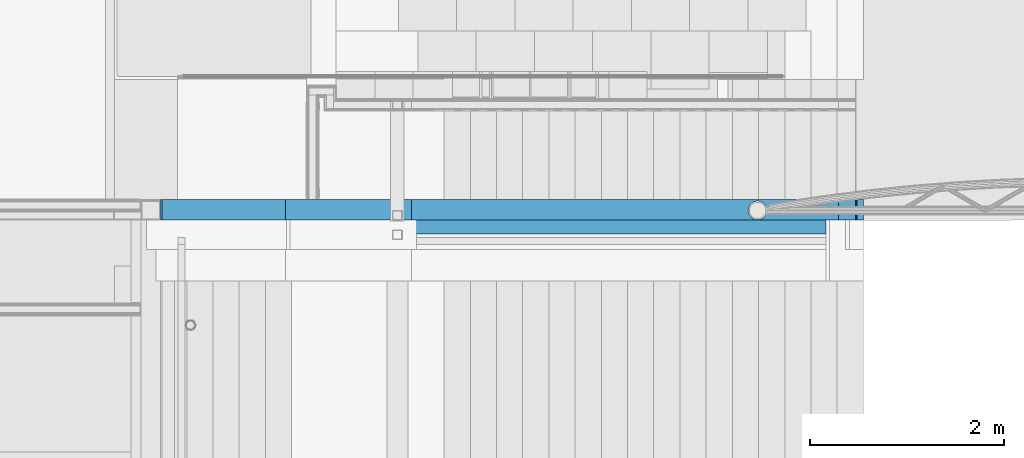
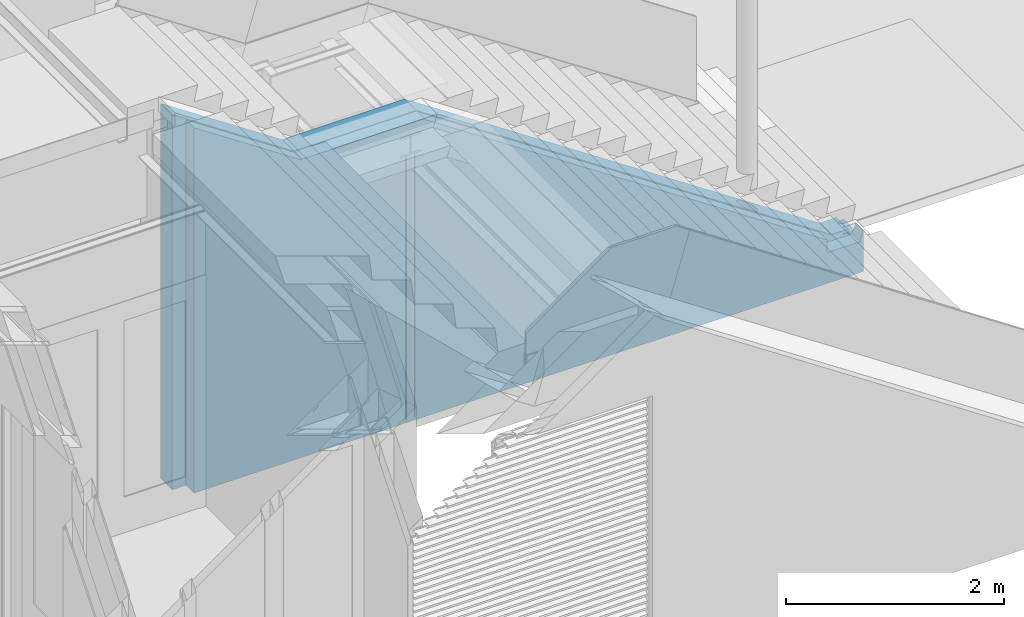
# One storey, part 49 of 165: 2 building element parts, 1 element without a shape of its own.
"""IFC2X3 building model written with IfcOpenShell, lengths in millimetres."""

from ifc_helpers import new_model, entity, si_unit, converted_unit, derived_unit, money_unit, direction, frame, origin_with_axes, place, context, subcontext, project, spatial, faceted_brep, material, type_object, element, aggregate, save


model = new_model("IFC2X3")

# Units and contexts
model_context = context("Model", 3, precision=0.01, world=origin_with_axes(), true_north=direction((0.0, 1.0)))
body_context = subcontext(model_context, "Body", "Model", "MODEL_VIEW")
ifc_project = project(units=[si_unit("LENGTHUNIT", "METRE", prefix="MILLI"), si_unit("AREAUNIT", "SQUARE_METRE"), si_unit("VOLUMEUNIT", "CUBIC_METRE"), converted_unit("PLANEANGLEUNIT", "DEGREE", entity("IfcPlaneAngleMeasure", 0.0174532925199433), si_unit("PLANEANGLEUNIT", "RADIAN"), dimensions=[0, 0, 0, 0, 0, 0, 0]), money_unit("EUR"), converted_unit("TIMEUNIT", "Year", entity("IfcTimeMeasure", 31556926.0), si_unit("TIMEUNIT", "SECOND"), dimensions=[0, 0, 1, 0, 0, 0, 0]), si_unit("MASSUNIT", "GRAM", prefix="KILO"), si_unit("THERMODYNAMICTEMPERATUREUNIT", "DEGREE_CELSIUS"), si_unit("LUMINOUSINTENSITYUNIT", "LUMEN"), si_unit("ENERGYUNIT", "JOULE", prefix="MEGA"), derived_unit("THERMALCONDUCTANCEUNIT", [(si_unit("POWERUNIT", "WATT"), 1), (si_unit("LENGTHUNIT", "METRE"), -1), (si_unit("THERMODYNAMICTEMPERATUREUNIT", "KELVIN"), -1)]), derived_unit("SPECIFICHEATCAPACITYUNIT", [(si_unit("ENERGYUNIT", "JOULE"), 1), (si_unit("MASSUNIT", "GRAM", prefix="KILO"), -1), (si_unit("THERMODYNAMICTEMPERATUREUNIT", "KELVIN"), -1)]), derived_unit("MASSDENSITYUNIT", [(si_unit("MASSUNIT", "GRAM", prefix="KILO"), 1), (si_unit("VOLUMEUNIT", "CUBIC_METRE"), -1)])], contexts=[model_context])

# Site, building, storey
site_placement = place(None, origin_with_axes())
site = spatial("IfcSite", under=ifc_project, at=site_placement, Name="Site", CompositionType="ELEMENT")
building_placement = place(site_placement, origin_with_axes())
building = spatial("IfcBuilding", under=site, at=building_placement, Name="Naam gebouw", CompositionType="ELEMENT")
storey_placement = place(building_placement, origin_with_axes())
storey = spatial("IfcBuildingStorey", under=building, at=storey_placement, Name="Begane grond", CompositionType="ELEMENT", Elevation=0.0)

# Wall, building element parts
wall_type = type_object("IfcWallType", Name="21 Buitenwand spouwmuur kalkzandsteen 464", PredefinedType="NOTDEFINED")
wall_placement = place(storey_placement, frame((11550.0, 4479.999999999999, -485.0), z_axis=(0.0, 0.0, 1.0), x_axis=(1.0, 0.0, 0.0)))
wall = element("IfcWall", 1, at=wall_placement, inside=storey, type_object=wall_type, Name="21_Wand-x")
ifc_material_1 = material(Name="Steen - Kalkzandsteen C")
building_element_part_1_placement = place(wall_placement, origin_with_axes())
building_element_part_1 = element("IfcBuildingElementPart", 2, at=building_element_part_1_placement, material=ifc_material_1, Name="Steen - Kalkzandsteen C", context=body_context, shape_type="Brep", body=[
    faceted_brep([(6242.926046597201, 72.71420186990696, 907.8761634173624), (6246.849152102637, 99.99999999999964, 905.2607588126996), (6246.849152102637, 99.99999999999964, 60.00000000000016), (6242.926046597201, 72.71420186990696, 60.00000000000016), (6163.782344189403, 4.135793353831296, 960.6386340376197), (6160.000091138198, 4.135793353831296, 963.1601360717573), (6160.000091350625, 0.0001859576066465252, 963.1601360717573), (6250.000091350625, 0.0001905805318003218, 903.1601360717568), (6250.000080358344, 214.0000000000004, 903.1601360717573), (6160.000080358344, 214.0000000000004, 963.1601360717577), (6160.000081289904, 195.864206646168, 963.1601360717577), (6163.782344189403, 195.864206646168, 960.638627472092), (6190.23209611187, 188.0978587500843, 943.0054597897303), (6213.422414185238, 173.1943462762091, 927.5452482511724), (6231.474556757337, 152.3610631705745, 915.5104872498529), (6242.926046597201, 127.2857981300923, 907.8761615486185), (6231.474556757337, 47.63893682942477, 915.5104908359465), (6213.422414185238, 26.80565372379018, 927.5452532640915), (6190.23209611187, 11.90214124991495, 943.0054658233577), (6242.926046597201, 127.2857981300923, 60.00000000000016), (6190.23209611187, 11.90214124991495, 60.00000000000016), (6213.422414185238, 26.80565372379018, 60.00000000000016), (6231.474556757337, 47.63893682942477, 60.00000000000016), (6231.474556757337, 152.3610631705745, 60.00000000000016), (6213.422414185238, 173.1943462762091, 60.00000000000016), (6190.23209611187, 188.0978587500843, 60.00000000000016), (6163.782344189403, 195.864206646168, 60.00000000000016), (6136.215960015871, 195.864206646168, 60.00000000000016), (6109.766208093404, 188.0978587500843, 60.00000000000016), (6086.575890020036, 173.19434627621, 60.00000000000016), (6068.523747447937, 152.3610631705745, 60.00000000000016), (6057.072257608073, 127.2857981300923, 60.00000000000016), (6053.149152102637, 99.99999999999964, 60.00000000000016), (6057.072257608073, 72.71420186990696, 60.00000000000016), (6068.523747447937, 47.63893682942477, 60.00000000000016), (6086.575890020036, 26.80565372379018, 60.00000000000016), (6109.766208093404, 11.90214124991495, 60.00000000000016), (6136.215960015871, 4.135793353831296, 60.00000000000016), (6163.782344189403, 4.135793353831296, 60.00000000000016), (6136.215960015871, 4.135793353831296, 979.0162234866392), (6086.575890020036, 26.80565372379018, 1012.109602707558), (6070.000088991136, 45.93514786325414, 1023.160136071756), (6070.000091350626, 0.0001813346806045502, 1023.160136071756), (6109.766208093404, 11.90214124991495, 996.6493911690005), (359.9999946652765, -1.948816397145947e-05, 3963.160135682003), (269.9999946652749, -1.686353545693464e-05, 4023.160135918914), (179.999994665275, -1.423890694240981e-05, 4083.160136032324), (89.99999466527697, -1.161427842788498e-05, 4143.160136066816), (12.24019877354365, -6.554595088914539e-06, 4194.999999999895), (0.0, -6.041945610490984e-06, 4194.999999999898), (0.0, 0.0, 4055.000000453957), (1.000000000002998, -0.0007431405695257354, 4055.000000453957), (1.000000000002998, -0.0007431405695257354, 3790.000000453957), (16.00000000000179, -0.0007431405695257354, 3790.000000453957), (16.00000000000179, -0.0007431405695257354, 3775.000000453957), (0.0, 0.0, 3775.000000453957), (0.0, 0.0, 0.0), (7240.000087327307, 0.0, 0.0), (7239.997955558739, 0.0, 110.0), (7104.997955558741, 0.0, 110.0), (7104.997955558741, 0.0, 120.2000000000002), (7169.19795555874, 0.0, 120.2000000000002), (7169.19795555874, 0.0, 369.8000000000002), (7104.997955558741, 0.0, 369.8000000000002), (7104.997955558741, 0.0, 380.0000000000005), (7159.997955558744, 0.0, 380.0000000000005), (7159.997955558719, 0.0002375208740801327, 414.9999999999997), (6982.240295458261, 0.0002281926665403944, 414.9999999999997), (6970.000091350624, 0.000227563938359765, 423.1601360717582), (6880.000091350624, 0.00022294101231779, 483.1601360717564), (6790.000091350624, 0.0002183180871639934, 543.1601360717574), (6700.000091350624, 0.0002136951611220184, 603.1601360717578), (6610.000091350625, 0.0002090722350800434, 663.1601360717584), (6520.000091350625, 0.0002044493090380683, 723.1601360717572), (6430.000091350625, 0.0001998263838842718, 783.1601360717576), (6340.000091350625, 0.0001952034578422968, 843.1601360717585), (5980.000091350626, 0.0001767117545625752, 1083.160136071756), (5890.000091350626, 0.0001720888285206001, 1143.160136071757), (5800.000091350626, 0.0001674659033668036, 1203.160136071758), (5710.000091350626, 0.0001628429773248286, 1263.160136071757), (5620.000091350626, 0.0001582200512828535, 1323.160136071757), (5530.000091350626, 0.000153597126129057, 1383.160136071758), (5440.000091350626, 0.000148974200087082, 1443.160136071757), (5350.000091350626, 0.0001443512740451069, 1503.160136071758), (5260.000091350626, 0.0001397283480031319, 1563.160136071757), (5170.000091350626, 0.0001351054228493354, 1623.160136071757), (5080.000091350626, 0.0001304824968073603, 1683.160136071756), (4990.000091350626, 0.0001258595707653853, 1743.160136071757), (4900.000091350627, 0.0001212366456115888, 1803.160136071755), (4810.000091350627, 0.0001166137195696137, 1863.160136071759), (4720.000091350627, 0.0001119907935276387, 1923.160136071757), (4630.000091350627, 0.0001073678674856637, 1983.160136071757), (4540.000091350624, 0.0001027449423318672, 2043.160136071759), (4450.000091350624, 9.812201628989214e-05, 2103.160136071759), (4360.000091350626, 9.349909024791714e-05, 2163.160136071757), (4270.000091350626, 8.887616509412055e-05, 2223.160136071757), (4180.000091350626, 8.425323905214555e-05, 2283.160136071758), (4090.000091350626, 7.963031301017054e-05, 2343.160136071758), (4000.000091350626, 7.500738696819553e-05, 2403.160136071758), (3910.000091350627, 7.038446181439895e-05, 2463.160136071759), (3820.000091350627, 6.576153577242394e-05, 2523.160136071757), (3730.000091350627, 6.113860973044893e-05, 2583.160136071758), (3640.000091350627, 5.651568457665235e-05, 2643.160136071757), (3550.000091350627, 5.189275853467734e-05, 2703.160136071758), (3460.000091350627, 4.726983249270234e-05, 2763.160136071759), (3370.000091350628, 4.264690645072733e-05, 2823.160136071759), (3280.000091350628, 3.802398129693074e-05, 2883.160136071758), (3190.000091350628, 3.340105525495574e-05, 2943.160136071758), (3100.000091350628, 2.877812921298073e-05, 3003.160136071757), (3010.000091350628, 2.415520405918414e-05, 3063.160136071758), (2587.240288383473, 6.620139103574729e-06, 3345.0), (1350.000106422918, -3.936943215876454e-05, 3345.0), (1287.240299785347, -3.936943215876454e-05, 3345.0), (1260.000062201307, -3.936943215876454e-05, 3363.16015318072), (1215.0000453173, -3.936943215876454e-05, 3393.160154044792), (1170.000028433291, -3.936943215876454e-05, 3423.160154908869), (1125.000011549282, -3.936943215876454e-05, 3453.160156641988), (1079.999994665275, -4.048519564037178e-05, 3483.160158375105), (1034.999994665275, -3.917288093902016e-05, 3513.160153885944), (989.9999946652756, -3.786056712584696e-05, 3543.160149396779), (944.9999946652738, -3.654825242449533e-05, 3573.16014574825), (899.9999946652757, -3.523593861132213e-05, 3603.160142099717), (854.999994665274, -3.39236239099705e-05, 3633.160138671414), (809.9999998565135, -3.261130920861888e-05, 3663.160131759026), (719.9999946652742, -3.261130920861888e-05, 3723.160134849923), (629.9999946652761, -2.736204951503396e-05, 3783.160134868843), (539.9999946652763, -2.473742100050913e-05, 3843.160135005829), (449.9999946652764, -2.21127924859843e-05, 3903.160135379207), (2389.999999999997, 0.0, 3326.499999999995), (2369.999999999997, -0.0007431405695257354, 3326.499999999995), (2369.999999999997, -0.0007431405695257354, 3334.999999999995), (2509.999999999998, -0.0007431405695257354, 3334.999999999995), (2509.999999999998, -0.0007431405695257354, 3326.499999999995), (2489.999999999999, 0.0, 3326.499999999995), (2489.999999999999, 0.0, 3210.499999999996), (2509.999999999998, -0.0007431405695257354, 3210.499999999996), (2509.999999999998, -0.0007431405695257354, 3201.999999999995), (2489.999999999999, 0.0, 3201.999999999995), (2489.999999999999, 0.0, 35.0000000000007), (2389.999999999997, 0.0, 35.0000000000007), (2389.999999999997, 0.0, 3201.999999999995), (2369.999999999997, -0.0007431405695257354, 3201.999999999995), (2369.999999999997, -0.0007431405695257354, 3210.499999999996), (2389.999999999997, 0.0, 3210.499999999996), (6340.000080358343, 214.0000000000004, 843.1601360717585), (6610.000080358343, 214.0000000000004, 663.1601360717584), (6700.000080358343, 214.0000000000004, 603.1601360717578), (6790.000080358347, 214.0000000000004, 543.1601360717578), (6880.000080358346, 214.0000000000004, 483.1601360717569), (6970.000080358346, 214.0000000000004, 423.1601360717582), (6982.240284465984, 214.0000000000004, 414.9999999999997), (7159.997955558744, 214.0000000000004, 414.9999999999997), (7159.997955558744, 214.0000000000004, 380.0000000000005), (7104.997955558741, 214.0000000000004, 380.0000000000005), (7104.997955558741, 214.0000000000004, 369.8000000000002), (7169.19795555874, 214.0000000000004, 369.8000000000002), (7169.19795555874, 214.0000000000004, 120.2000000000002), (7104.997955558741, 214.0000000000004, 120.2000000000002), (7104.997955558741, 214.0000000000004, 110.0), (7239.997955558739, 214.0000000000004, 110.0), (7240.000087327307, 214.0000000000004, 0.0), (0.0, 214.0000000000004, 0.0), (0.0, 214.0000000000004, 4194.999999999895), (12.24020501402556, 214.0000000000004, 4194.999999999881), (90.00000090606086, 214.0000000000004, 4143.160136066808), (180.0000009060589, 214.0000000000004, 4083.160136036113), (270.0000009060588, 214.0000000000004, 4023.160135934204), (360.0000009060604, 214.0000000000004, 3963.160135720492), (450.0000009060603, 214.0000000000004, 3903.160135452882), (540.0000009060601, 214.0000000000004, 3843.160135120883), (630.00000090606, 214.0000000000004, 3783.160135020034), (720.0000010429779, 214.0000000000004, 3723.160134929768), (810.0000030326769, 214.0000000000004, 3663.160133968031), (828.4344798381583, 214.0000000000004, 3650.870484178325), (881.5655222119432, 214.0000000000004, 3615.449792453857), (900.0000009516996, 214.0000000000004, 3603.160141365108), (918.4344795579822, 214.0000000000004, 3590.870490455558), (971.5655225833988, 214.0000000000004, 3555.449798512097), (990.0000009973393, 214.0000000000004, 3543.160147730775), (1008.434479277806, 214.0000000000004, 3530.870497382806), (1061.565522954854, 214.0000000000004, 3495.449805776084), (1080.000001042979, 214.0000000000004, 3483.160155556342), (1098.434486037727, 214.0000000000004, 3470.870502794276), (1151.565544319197, 214.0000000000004, 3435.449806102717), (1170.000029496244, 214.0000000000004, 3423.16015321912), (1188.434514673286, 214.0000000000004, 3410.870500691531), (1241.56557277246, 214.0000000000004, 3375.449804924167), (1260.000057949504, 214.0000000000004, 3363.16015239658), (1278.434543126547, 214.0000000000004, 3350.870500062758), (1287.240295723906, 214.0000000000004, 3345.0), (1350.000095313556, 214.0000000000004, 3345.0), (2587.240278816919, 214.0000000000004, 3344.999999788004), (3010.000080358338, 214.0000000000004, 3063.160136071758), (3100.00008035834, 214.0000000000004, 3003.160136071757), (3190.00008035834, 214.0000000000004, 2943.160136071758), (3280.00008035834, 214.0000000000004, 2883.160136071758), (3370.00008035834, 214.0000000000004, 2823.160136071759), (3460.000080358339, 214.0000000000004, 2763.160136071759), (3550.000080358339, 214.0000000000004, 2703.160136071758), (3640.000080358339, 214.0000000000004, 2643.160136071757), (3730.000080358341, 214.0000000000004, 2583.160136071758), (3820.000080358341, 214.0000000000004, 2523.160136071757), (3910.000080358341, 214.0000000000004, 2463.160136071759), (4000.00008035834, 214.0000000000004, 2403.160136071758), (4090.00008035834, 214.0000000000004, 2343.160136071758), (4180.00008035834, 214.0000000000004, 2283.160136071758), (4270.00008035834, 214.0000000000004, 2223.160136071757), (4360.00008035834, 214.0000000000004, 2163.160136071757), (4450.00008035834, 214.0000000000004, 2103.160136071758), (4540.00008035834, 214.0000000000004, 2043.160136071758), (4630.000080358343, 214.0000000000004, 1983.160136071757), (4720.000080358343, 214.0000000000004, 1923.160136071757), (4810.000080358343, 214.0000000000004, 1863.160136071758), (4900.000080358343, 214.0000000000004, 1803.160136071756), (4990.000080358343, 214.0000000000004, 1743.160136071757), (5080.000080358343, 214.0000000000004, 1683.160136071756), (5170.000080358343, 214.0000000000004, 1623.160136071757), (5260.000080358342, 214.0000000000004, 1563.160136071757), (5350.000080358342, 214.0000000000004, 1503.160136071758), (5440.000080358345, 214.0000000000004, 1443.160136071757), (5530.000080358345, 214.0000000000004, 1383.160136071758), (5620.000080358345, 214.0000000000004, 1323.160136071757), (5710.000080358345, 214.0000000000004, 1263.160136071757), (5800.000080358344, 214.0000000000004, 1203.160136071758), (5890.000080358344, 214.0000000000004, 1143.160136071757), (5980.000080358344, 214.0000000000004, 1083.160136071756), (6070.000080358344, 214.0000000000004, 1023.160136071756), (6430.000080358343, 214.0000000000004, 783.1601360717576), (6520.000080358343, 214.0000000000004, 723.1601360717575), (2437.249999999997, 214.0000000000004, 3210.499999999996), (2369.999999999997, 214.0000000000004, 3210.499999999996), (2369.999999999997, 214.0000000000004, 3201.999999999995), (2509.999999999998, 214.0000000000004, 3201.999999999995), (2509.999999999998, 214.0000000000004, 3210.499999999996), (2442.749999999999, 214.0000000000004, 3210.499999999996), (2442.749999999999, 214.0000000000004, 3326.499999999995), (2509.999999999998, 214.0000000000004, 3326.499999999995), (2509.999999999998, 214.0000000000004, 3334.999999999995), (2369.999999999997, 214.0000000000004, 3334.999999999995), (2369.999999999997, 214.0000000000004, 3326.499999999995), (2437.249999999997, 214.0000000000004, 3326.499999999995), (6086.575890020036, 173.19434627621, 1012.109597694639), (6109.766208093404, 188.0978587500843, 996.6493851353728), (6136.215960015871, 195.864206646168, 979.0162169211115), (6070.000083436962, 154.0648457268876, 1023.160136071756), (6068.523747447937, 152.3610631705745, 1024.144360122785), (6057.072257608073, 127.2857981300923, 1031.778687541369), (6053.149152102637, 99.99999999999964, 1034.394092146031), (6057.072257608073, 72.71420186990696, 1031.778689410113), (6068.523747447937, 47.63893682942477, 1024.144363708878), (0.0, 199.9999999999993, 3775.000000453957), (0.0, 199.9999999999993, 4055.000000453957), (1.000000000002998, 199.9999999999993, 4055.000000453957), (1.000000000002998, 199.9999999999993, 3790.000000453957), (16.00000000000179, 199.9999999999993, 3790.000000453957), (16.00000000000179, 199.9999999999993, 3775.000000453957), (1287.240298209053, 143.0647876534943, 3345.0), (2389.999999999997, 100.0000000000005, 3326.499999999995), (2437.249999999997, 100.0000000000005, 3326.499999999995), (2442.749999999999, 100.0000000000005, 3326.499999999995), (2489.999999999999, 100.0000000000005, 3326.499999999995), (2489.999999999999, 100.0000000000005, 3210.499999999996), (2442.749999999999, 100.0000000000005, 3210.499999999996), (2389.999999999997, 100.0000000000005, 3201.999999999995), (2489.999999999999, 100.0000000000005, 3201.999999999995), (2489.999999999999, 100.0000000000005, 35.0000000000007), (2389.999999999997, 100.0000000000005, 35.0000000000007), (2483.999999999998, 6.000000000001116, 35.0000000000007), (2395.999999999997, 6.000000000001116, 35.0000000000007), (2395.999999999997, 94.00000000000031, 35.0000000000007), (2483.999999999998, 94.00000000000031, 35.0000000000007), (2437.249999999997, 100.0000000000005, 3210.499999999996), (2389.999999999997, 100.0000000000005, 3210.499999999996), (2483.999999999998, 6.000000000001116, 3201.999999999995), (2395.999999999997, 6.000000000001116, 3201.999999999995), (2395.999999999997, 94.00000000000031, 3201.999999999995), (2483.999999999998, 94.00000000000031, 3201.999999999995)], [[[0, 1, 2, 3]], [[4, 5, 6, 7, 8, 9, 10, 11, 12, 13, 14, 15, 1, 0, 16, 17, 18]], [[1, 15, 19, 2]], [[20, 21, 22, 3, 2, 19, 23, 24, 25, 26, 27, 28, 29, 30, 31, 32, 33, 34, 35, 36, 37, 38]], [[16, 0, 3, 22]], [[4, 38, 37, 39, 5]], [[40, 41, 42, 6, 5, 39, 43]], [[44, 45, 46, 47, 48, 49, 50, 51, 52, 53, 54, 55, 56, 57, 58, 59, 60, 61, 62, 63, 64, 65, 66, 67, 68, 69, 70, 71, 72, 73, 74, 75, 7, 6, 42, 76, 77, 78, 79, 80, 81, 82, 83, 84, 85, 86, 87, 88, 89, 90, 91, 92, 93, 94, 95, 96, 97, 98, 99, 100, 101, 102, 103, 104, 105, 106, 107, 108, 109, 110, 111, 112, 113, 114, 115, 116, 117, 118, 119, 120, 121, 122, 123, 124, 125, 126, 127], [128, 129, 130, 131, 132, 133, 134, 135, 136, 137, 138, 139, 140, 141, 142, 143]], [[144, 8, 7, 75]], [[145, 146, 147, 148, 149, 150, 151, 152, 153, 154, 155, 156, 157, 158, 159, 160, 161, 162, 163, 164, 165, 166, 167, 168, 169, 170, 171, 172, 173, 174, 175, 176, 177, 178, 179, 180, 181, 182, 183, 184, 185, 186, 187, 188, 189, 190, 191, 192, 193, 194, 195, 196, 197, 198, 199, 200, 201, 202, 203, 204, 205, 206, 207, 208, 209, 210, 211, 212, 213, 214, 215, 216, 217, 218, 219, 220, 221, 222, 223, 224, 225, 226, 9, 8, 144, 227, 228], [229, 230, 231, 232, 233, 234, 235, 236, 237, 238, 239, 240]], [[241, 242, 243, 10, 9, 226, 244]], [[243, 27, 26, 11, 10]], [[12, 11, 26, 25]], [[13, 12, 25, 24]], [[14, 13, 24, 23]], [[15, 14, 23, 19]], [[17, 16, 22, 21]], [[18, 17, 21, 20]], [[4, 18, 20, 38]], [[243, 242, 28, 27]], [[242, 241, 29, 28]], [[245, 30, 29, 241, 244]], [[245, 246, 31, 30]], [[246, 247, 32, 31]], [[247, 248, 33, 32]], [[248, 249, 34, 33]], [[40, 35, 34, 249, 41]], [[40, 43, 36, 35]], [[43, 39, 37, 36]], [[247, 246, 245, 244, 226, 225, 76, 42, 41, 249, 248]], [[167, 166, 45, 44]], [[166, 165, 46, 45]], [[165, 164, 47, 46]], [[164, 163, 48, 47]], [[163, 162, 49, 48]], [[55, 250, 251, 50, 49, 162, 161, 56]], [[251, 252, 51, 50]], [[252, 253, 52, 51]], [[253, 254, 53, 52]], [[254, 255, 54, 53]], [[255, 250, 55, 54]], [[160, 57, 56, 161]], [[57, 160, 159, 58]], [[158, 59, 58, 159]], [[60, 59, 158, 157]], [[61, 60, 157, 156]], [[62, 61, 156, 155]], [[63, 62, 155, 154]], [[64, 63, 154, 153]], [[65, 64, 153, 152]], [[151, 66, 65, 152]], [[66, 151, 150, 67]], [[150, 149, 68, 67]], [[149, 148, 69, 68]], [[148, 147, 70, 69]], [[147, 146, 71, 70]], [[146, 145, 72, 71]], [[145, 228, 73, 72]], [[228, 227, 74, 73]], [[227, 144, 75, 74]], [[225, 224, 77, 76]], [[224, 223, 78, 77]], [[223, 222, 79, 78]], [[222, 221, 80, 79]], [[221, 220, 81, 80]], [[220, 219, 82, 81]], [[219, 218, 83, 82]], [[218, 217, 84, 83]], [[217, 216, 85, 84]], [[216, 215, 86, 85]], [[215, 214, 87, 86]], [[214, 213, 88, 87]], [[213, 212, 89, 88]], [[212, 211, 90, 89]], [[211, 210, 91, 90]], [[210, 209, 92, 91]], [[209, 208, 93, 92]], [[208, 207, 94, 93]], [[207, 206, 95, 94]], [[206, 205, 96, 95]], [[205, 204, 97, 96]], [[204, 203, 98, 97]], [[203, 202, 99, 98]], [[202, 201, 100, 99]], [[201, 200, 101, 100]], [[200, 199, 102, 101]], [[199, 198, 103, 102]], [[198, 197, 104, 103]], [[197, 196, 105, 104]], [[196, 195, 106, 105]], [[195, 194, 107, 106]], [[194, 193, 108, 107]], [[193, 192, 109, 108]], [[192, 191, 110, 109]], [[191, 190, 111, 110]], [[189, 256, 112, 111, 190]], [[112, 256, 188, 187, 113]], [[187, 186, 114, 113]], [[115, 114, 185, 184]], [[184, 183, 116, 115]], [[117, 116, 182, 181]], [[181, 180, 118, 117]], [[119, 118, 179, 178]], [[178, 177, 120, 119]], [[121, 120, 176, 175]], [[175, 174, 122, 121]], [[123, 122, 173, 172]], [[172, 171, 124, 123]], [[171, 170, 125, 124]], [[170, 169, 126, 125]], [[169, 168, 127, 126]], [[168, 167, 44, 127]], [[257, 258, 240, 239, 129, 128]], [[130, 129, 239, 238]], [[131, 130, 238, 237]], [[132, 131, 237, 236]], [[133, 132, 236, 235, 259, 260]], [[134, 133, 260, 261]], [[262, 234, 233, 135, 134, 261]], [[136, 135, 233, 232]], [[137, 136, 232, 231, 141, 140, 263, 264]], [[138, 137, 264, 265]], [[266, 139, 138, 265], [267, 268, 269, 270]], [[266, 263, 140, 139]], [[142, 141, 231, 230]], [[143, 142, 230, 229, 271, 272]], [[272, 257, 128, 143]], [[122, 174, 173]], [[120, 177, 176]], [[118, 180, 179]], [[116, 183, 182]], [[114, 186, 185]], [[256, 189, 188]], [[234, 262, 259, 235]], [[240, 258, 271, 229]], [[251, 250, 255, 254, 253, 252]], [[272, 271, 258, 257]], [[261, 260, 259, 262]], [[265, 264, 263, 266]], [[267, 273, 274, 268]], [[268, 274, 275, 269]], [[269, 275, 276, 270]], [[270, 276, 273, 267]], [[275, 274, 273, 276]]]),
    faceted_brep([(7239.997955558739, 214.0000000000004, 120.2000000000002), (7175.797955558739, 214.0000000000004, 120.2000000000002), (7175.797955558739, 214.0000000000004, 369.8000000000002), (7239.997955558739, 214.0000000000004, 369.8000000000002), (7175.797955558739, 0.0, 120.2000000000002), (7239.997955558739, 0.0, 120.2000000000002), (7175.797955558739, 0.0, 369.8000000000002), (7239.997955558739, 0.0, 369.8000000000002)], [[[0, 1, 2, 3]], [[4, 1, 0, 5]], [[6, 2, 1, 4]], [[6, 7, 3, 2]], [[7, 5, 0, 3]], [[6, 4, 5, 7]]]),
    faceted_brep([(2437.249999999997, 94.00000000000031, 3326.499999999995), (2437.249999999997, 6.000000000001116, 3326.499999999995), (2437.249999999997, 6.000000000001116, 3210.499999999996), (2437.249999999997, 94.00000000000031, 3210.499999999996), (2395.999999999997, 94.00000000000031, 3326.499999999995), (2395.999999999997, 6.000000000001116, 3326.499999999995), (2395.999999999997, 6.000000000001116, 3210.499999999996), (2395.999999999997, 94.00000000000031, 3210.499999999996)], [[[0, 1, 2, 3]], [[4, 5, 1, 0]], [[6, 2, 1, 5]], [[6, 7, 3, 2]], [[7, 4, 0, 3]], [[6, 5, 4, 7]]]),
    faceted_brep([(2442.749999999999, 94.00000000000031, 3326.499999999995), (2442.749999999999, 6.000000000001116, 3326.499999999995), (2483.999999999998, 6.000000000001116, 3326.499999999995), (2483.999999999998, 94.00000000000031, 3326.499999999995), (2442.749999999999, 94.00000000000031, 3210.499999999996), (2442.749999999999, 6.000000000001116, 3210.499999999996), (2483.999999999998, 6.000000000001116, 3210.499999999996), (2483.999999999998, 94.00000000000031, 3210.499999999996)], [[[0, 1, 2, 3]], [[4, 5, 1, 0]], [[6, 2, 1, 5]], [[7, 3, 2, 6]], [[4, 0, 3, 7]], [[7, 6, 5, 4]]]),
])
ifc_material_2 = material(Name="Isolatie - Steenwol zacht")
building_element_part_2_placement = place(wall_placement, origin_with_axes())
building_element_part_2 = element("IfcBuildingElementPart", 3, at=building_element_part_2_placement, material=ifc_material_2, Name="Isolatie - Steenwol zacht", context=body_context, shape_type="Brep", body=[
    faceted_brep([(6855.907025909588, -9.992145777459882e-06, 344.9999998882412), (7203.666809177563, -9.992145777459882e-06, 344.9999998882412), (7239.999885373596, -9.878766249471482e-06, 465.0000000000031), (7240.000087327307, 0.0, 0.0), (144.9999999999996, 0.0, 0.0), (144.9999999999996, 2.942730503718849e-07, 4094.691547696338), (1292.472818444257, 2.942730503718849e-07, 3329.709672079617), (1295.501476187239, 2.664419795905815e-07, 3339.712649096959), (2592.472396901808, 1.975460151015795e-05, 3339.712922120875), (2592.472396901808, -9.489250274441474e-06, 3329.709769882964), (6855.907025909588, -9.992145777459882e-06, 487.4200296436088), (2437.249999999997, 0.0, 3210.499999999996), (2369.999999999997, 0.0, 3210.499999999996), (2369.999999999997, 0.0, 3201.999999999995), (2509.999999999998, 0.0, 3201.999999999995), (2509.999999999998, 0.0, 3210.499999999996), (2442.749999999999, 0.0, 3210.499999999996), (2442.749999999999, 0.0, 3326.499999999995), (2509.999999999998, 0.0, 3326.499999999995), (2509.999999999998, 0.0, 3334.999999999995), (2369.999999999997, 0.0, 3334.999999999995), (2369.999999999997, 0.0, 3326.499999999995), (2437.249999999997, 0.0, 3326.499999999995), (6855.907025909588, -144.9999999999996, 344.9999998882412), (7203.666809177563, -144.9999999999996, 344.9999998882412), (7239.999885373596, -144.9999999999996, 465.0000000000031), (7240.000087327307, -144.9999999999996, 0.0), (144.9999999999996, -144.9999999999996, 0.0), (144.9999999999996, -144.9999999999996, 4094.691547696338), (1292.472818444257, -144.9999999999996, 3329.709672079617), (1295.501476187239, -144.9999999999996, 3339.712649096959), (2592.472396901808, -144.9999999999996, 3339.712922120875), (2592.472396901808, -144.9999999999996, 3329.709769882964), (6855.907025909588, -144.9999999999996, 487.4200296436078), (2437.249999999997, -11.0000000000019, 3210.499999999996), (2369.999999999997, -11.0000000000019, 3210.499999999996), (2369.999999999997, -11.0000000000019, 3201.999999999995), (2509.999999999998, -11.0000000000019, 3201.999999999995), (2509.999999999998, -11.0000000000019, 3210.499999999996), (2442.749999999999, -11.0000000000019, 3210.499999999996), (2442.749999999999, -11.0000000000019, 3326.499999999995), (2509.999999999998, -11.0000000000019, 3326.499999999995), (2509.999999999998, -11.0000000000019, 3334.999999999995), (2369.999999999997, -11.0000000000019, 3334.999999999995), (2369.999999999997, -11.0000000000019, 3326.499999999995), (2437.249999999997, -11.0000000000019, 3326.499999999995), (2489.999999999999, -144.9999999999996, 35.0000000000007), (2483.999999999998, -144.9999999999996, 35.0000000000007), (2483.999999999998, -144.9999999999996, 2990.0), (2395.999999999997, -144.9999999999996, 2990.0), (2395.999999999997, -144.9999999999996, 35.0000000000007), (2389.999999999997, -144.9999999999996, 35.0000000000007), (2389.999999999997, -144.9999999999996, 2990.0), (2329.999999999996, -144.9999999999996, 2990.0), (2329.999999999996, -144.9999999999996, 3006.0), (2435.249999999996, -144.9999999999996, 3006.0), (2435.249999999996, -144.9999999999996, 3194.0), (2329.999999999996, -144.9999999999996, 3194.0), (2329.999999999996, -144.9999999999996, 3210.0), (2549.999999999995, -144.9999999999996, 3210.0), (2549.999999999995, -144.9999999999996, 3194.0), (2444.749999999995, -144.9999999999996, 3194.0), (2444.749999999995, -144.9999999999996, 3006.0), (2549.999999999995, -144.9999999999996, 3006.0), (2549.999999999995, -144.9999999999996, 2990.0), (2489.999999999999, -144.9999999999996, 2990.0), (2389.999999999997, -100.0000000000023, 35.0000000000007), (2395.999999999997, -106.0000000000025, 35.0000000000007), (2483.999999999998, -106.0000000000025, 35.0000000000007), (2489.999999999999, -100.0000000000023, 35.0000000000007), (2483.999999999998, -106.0000000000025, 2990.0), (2395.999999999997, -106.0000000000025, 2990.0), (2389.999999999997, -100.0000000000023, 2990.0), (2329.999999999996, -100.0000000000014, 2990.0), (2329.999999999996, -100.0000000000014, 3006.0), (2435.249999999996, -100.0000000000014, 3006.0), (2435.249999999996, -100.0000000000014, 3194.0), (2329.999999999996, -100.0000000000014, 3194.0), (2329.999999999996, -100.0000000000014, 3210.0), (2549.999999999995, -100.0000000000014, 3210.0), (2549.999999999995, -100.0000000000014, 3194.0), (2444.749999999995, -100.0000000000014, 3194.0), (2444.749999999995, -100.0000000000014, 3006.0), (2549.999999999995, -100.0000000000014, 3006.0), (2549.999999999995, -100.0000000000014, 2990.0), (2489.999999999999, -100.0000000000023, 2990.0)], [[[0, 1, 2, 3, 4, 5, 6, 7, 8, 9, 10], [11, 12, 13, 14, 15, 16, 17, 18, 19, 20, 21, 22]], [[1, 0, 23, 24]], [[25, 2, 1, 24]], [[2, 25, 26, 3]], [[3, 26, 27, 4]], [[27, 28, 5, 4]], [[29, 6, 5, 28]], [[29, 30, 7, 6]], [[8, 7, 30, 31]], [[32, 9, 8, 31]], [[33, 10, 9, 32]], [[0, 10, 33, 23]], [[34, 35, 12, 11]], [[35, 36, 13, 12]], [[36, 37, 14, 13]], [[37, 38, 15, 14]], [[38, 39, 16, 15]], [[39, 40, 17, 16]], [[40, 41, 18, 17]], [[41, 42, 19, 18]], [[42, 43, 20, 19]], [[43, 44, 21, 20]], [[44, 45, 22, 21]], [[45, 34, 11, 22]], [[23, 33, 32, 31, 30, 29, 28, 27, 26, 25, 24], [46, 47, 48, 49, 50, 51, 52, 53, 54, 55, 56, 57, 58, 59, 60, 61, 62, 63, 64, 65]], [[37, 36, 35, 34, 45, 44, 43, 42, 41, 40, 39, 38]], [[66, 51, 50, 67, 68, 47, 46, 69]], [[68, 70, 48, 47]], [[70, 71, 49, 48]], [[50, 49, 71, 67]], [[66, 72, 52, 51]], [[53, 52, 72, 73]], [[73, 74, 54, 53]], [[74, 75, 55, 54]], [[75, 76, 56, 55]], [[76, 77, 57, 56]], [[77, 78, 58, 57]], [[78, 79, 59, 58]], [[79, 80, 60, 59]], [[80, 81, 61, 60]], [[81, 82, 62, 61]], [[82, 83, 63, 62]], [[83, 84, 64, 63]], [[84, 85, 65, 64]], [[46, 65, 85, 69]], [[67, 71, 70, 68]], [[77, 76, 75, 74, 73, 72, 66, 69, 85, 84, 83, 82, 81, 80, 79, 78]]]),
])
aggregate(wall, [building_element_part_1, building_element_part_2])

save(model, "model.ifc")
